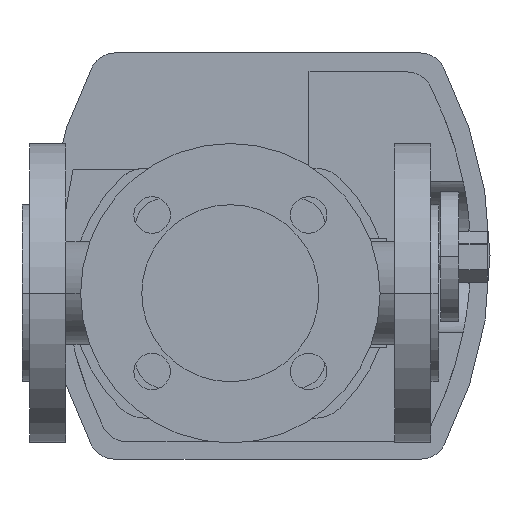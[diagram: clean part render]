
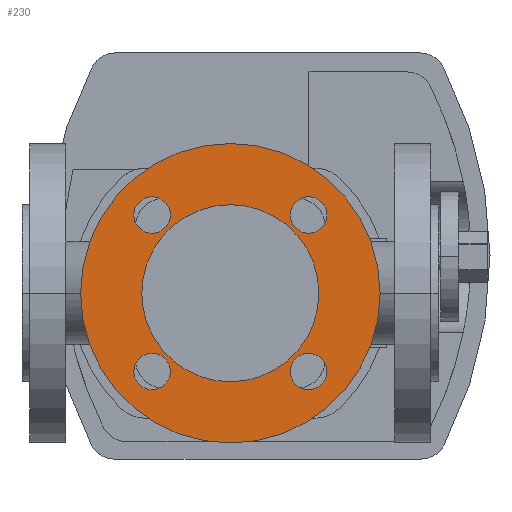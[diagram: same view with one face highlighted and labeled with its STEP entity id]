
A CAD part, front view. The second image highlights one B-rep face of the part: STEP entity #230.
In plain terms, the highlighted planar face has unit normal (0, -1, 0).
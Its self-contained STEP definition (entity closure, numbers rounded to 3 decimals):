
#230 = ADVANCED_FACE( '', ( #603, #604, #605, #606, #607, #608 ), #609, .F. );
#603 = FACE_BOUND( '', #1143, .T. );
#604 = FACE_BOUND( '', #1144, .T. );
#605 = FACE_BOUND( '', #1145, .T. );
#606 = FACE_BOUND( '', #1146, .T. );
#607 = FACE_OUTER_BOUND( '', #1147, .T. );
#608 = FACE_BOUND( '', #1148, .T. );
#609 = PLANE( '', #1149 );
#1143 = EDGE_LOOP( '', ( #2265, #2266 ) );
#1144 = EDGE_LOOP( '', ( #2267, #2268 ) );
#1145 = EDGE_LOOP( '', ( #2269, #2270 ) );
#1146 = EDGE_LOOP( '', ( #2271, #2272 ) );
#1147 = EDGE_LOOP( '', ( #2273, #2274 ) );
#1148 = EDGE_LOOP( '', ( #2275, #2276 ) );
#1149 = AXIS2_PLACEMENT_3D( '', #2277, #2278, #2279 );
#2265 = ORIENTED_EDGE( '', *, *, #3563, .T. );
#2266 = ORIENTED_EDGE( '', *, *, #3564, .T. );
#2267 = ORIENTED_EDGE( '', *, *, #3559, .T. );
#2268 = ORIENTED_EDGE( '', *, *, #3566, .T. );
#2269 = ORIENTED_EDGE( '', *, *, #3555, .T. );
#2270 = ORIENTED_EDGE( '', *, *, #3568, .T. );
#2271 = ORIENTED_EDGE( '', *, *, #3551, .T. );
#2272 = ORIENTED_EDGE( '', *, *, #3570, .T. );
#2273 = ORIENTED_EDGE( '', *, *, #3467, .F. );
#2274 = ORIENTED_EDGE( '', *, *, #3728, .F. );
#2275 = ORIENTED_EDGE( '', *, *, #3449, .F. );
#2276 = ORIENTED_EDGE( '', *, *, #3729, .F. );
#2277 = CARTESIAN_POINT( '', ( 80., -72., 0. ) );
#2278 = DIRECTION( '', ( 0., 1., 0. ) );
#2279 = DIRECTION( '', ( 0., 0., 1. ) );
#3449 = EDGE_CURVE( '', #4088, #4084, #4090, .T. );
#3467 = EDGE_CURVE( '', #4123, #4126, #4127, .T. );
#3551 = EDGE_CURVE( '', #4285, #4289, #4291, .T. );
#3555 = EDGE_CURVE( '', #4293, #4297, #4299, .T. );
#3559 = EDGE_CURVE( '', #4301, #4305, #4307, .T. );
#3563 = EDGE_CURVE( '', #4309, #4313, #4315, .T. );
#3564 = EDGE_CURVE( '', #4313, #4309, #4316, .T. );
#3566 = EDGE_CURVE( '', #4305, #4301, #4318, .T. );
#3568 = EDGE_CURVE( '', #4297, #4293, #4320, .T. );
#3570 = EDGE_CURVE( '', #4289, #4285, #4322, .T. );
#3728 = EDGE_CURVE( '', #4126, #4123, #4559, .T. );
#3729 = EDGE_CURVE( '', #4084, #4088, #4560, .T. );
#4084 = VERTEX_POINT( '', #5130 );
#4088 = VERTEX_POINT( '', #5135 );
#4090 = CIRCLE( '', #5138, 34. );
#4123 = VERTEX_POINT( '', #5228 );
#4126 = VERTEX_POINT( '', #5232 );
#4127 = CIRCLE( '', #5233, 57.5 );
#4285 = VERTEX_POINT( '', #5502 );
#4289 = VERTEX_POINT( '', #5507 );
#4291 = CIRCLE( '', #5510, 7. );
#4293 = VERTEX_POINT( '', #5512 );
#4297 = VERTEX_POINT( '', #5517 );
#4299 = CIRCLE( '', #5520, 7. );
#4301 = VERTEX_POINT( '', #5522 );
#4305 = VERTEX_POINT( '', #5527 );
#4307 = CIRCLE( '', #5530, 7. );
#4309 = VERTEX_POINT( '', #5532 );
#4313 = VERTEX_POINT( '', #5537 );
#4315 = CIRCLE( '', #5540, 7. );
#4316 = CIRCLE( '', #5541, 7. );
#4318 = CIRCLE( '', #5543, 7. );
#4320 = CIRCLE( '', #5545, 7. );
#4322 = CIRCLE( '', #5547, 7. );
#4559 = CIRCLE( '', #5995, 57.5 );
#4560 = CIRCLE( '', #5996, 34. );
#5130 = CARTESIAN_POINT( '', ( 114., -72., 0. ) );
#5135 = CARTESIAN_POINT( '', ( 46., -72., 0. ) );
#5138 = AXIS2_PLACEMENT_3D( '', #6813, #6814, #6815 );
#5228 = CARTESIAN_POINT( '', ( 137.5, -72., 0. ) );
#5232 = CARTESIAN_POINT( '', ( 22.5, -72., 0. ) );
#5233 = AXIS2_PLACEMENT_3D( '', #6846, #6847, #6848 );
#5502 = CARTESIAN_POINT( '', ( 42.948, -72., -30.052 ) );
#5507 = CARTESIAN_POINT( '', ( 56.948, -72., -30.052 ) );
#5510 = AXIS2_PLACEMENT_3D( '', #7008, #7009, #7010 );
#5512 = CARTESIAN_POINT( '', ( 42.948, -72., 30.052 ) );
#5517 = CARTESIAN_POINT( '', ( 56.948, -72., 30.052 ) );
#5520 = AXIS2_PLACEMENT_3D( '', #7016, #7017, #7018 );
#5522 = CARTESIAN_POINT( '', ( 103.052, -72., 30.052 ) );
#5527 = CARTESIAN_POINT( '', ( 117.052, -72., 30.052 ) );
#5530 = AXIS2_PLACEMENT_3D( '', #7024, #7025, #7026 );
#5532 = CARTESIAN_POINT( '', ( 103.052, -72., -30.052 ) );
#5537 = CARTESIAN_POINT( '', ( 117.052, -72., -30.052 ) );
#5540 = AXIS2_PLACEMENT_3D( '', #7032, #7033, #7034 );
#5541 = AXIS2_PLACEMENT_3D( '', #7035, #7036, #7037 );
#5543 = AXIS2_PLACEMENT_3D( '', #7041, #7042, #7043 );
#5545 = AXIS2_PLACEMENT_3D( '', #7047, #7048, #7049 );
#5547 = AXIS2_PLACEMENT_3D( '', #7053, #7054, #7055 );
#5995 = AXIS2_PLACEMENT_3D( '', #7335, #7336, #7337 );
#5996 = AXIS2_PLACEMENT_3D( '', #7338, #7339, #7340 );
#6813 = CARTESIAN_POINT( '', ( 80., -72., 0. ) );
#6814 = DIRECTION( '', ( 0., -1., 0. ) );
#6815 = DIRECTION( '', ( 1., 0., 0. ) );
#6846 = CARTESIAN_POINT( '', ( 80., -72., 0. ) );
#6847 = DIRECTION( '', ( 0., 1., 0. ) );
#6848 = DIRECTION( '', ( 1., 0., 0. ) );
#7008 = CARTESIAN_POINT( '', ( 49.948, -72., -30.052 ) );
#7009 = DIRECTION( '', ( 0., 1., 0. ) );
#7010 = DIRECTION( '', ( -1., 0., 0. ) );
#7016 = CARTESIAN_POINT( '', ( 49.948, -72., 30.052 ) );
#7017 = DIRECTION( '', ( 0., 1., 0. ) );
#7018 = DIRECTION( '', ( -1., 0., 0. ) );
#7024 = CARTESIAN_POINT( '', ( 110.052, -72., 30.052 ) );
#7025 = DIRECTION( '', ( 0., 1., 0. ) );
#7026 = DIRECTION( '', ( -1., 0., 0. ) );
#7032 = CARTESIAN_POINT( '', ( 110.052, -72., -30.052 ) );
#7033 = DIRECTION( '', ( 0., 1., 0. ) );
#7034 = DIRECTION( '', ( -1., 0., 0. ) );
#7035 = CARTESIAN_POINT( '', ( 110.052, -72., -30.052 ) );
#7036 = DIRECTION( '', ( 0., 1., 0. ) );
#7037 = DIRECTION( '', ( -1., 0., 0. ) );
#7041 = CARTESIAN_POINT( '', ( 110.052, -72., 30.052 ) );
#7042 = DIRECTION( '', ( 0., 1., 0. ) );
#7043 = DIRECTION( '', ( -1., 0., 0. ) );
#7047 = CARTESIAN_POINT( '', ( 49.948, -72., 30.052 ) );
#7048 = DIRECTION( '', ( 0., 1., 0. ) );
#7049 = DIRECTION( '', ( -1., 0., 0. ) );
#7053 = CARTESIAN_POINT( '', ( 49.948, -72., -30.052 ) );
#7054 = DIRECTION( '', ( 0., 1., 0. ) );
#7055 = DIRECTION( '', ( -1., 0., 0. ) );
#7335 = CARTESIAN_POINT( '', ( 80., -72., 0. ) );
#7336 = DIRECTION( '', ( 0., 1., 0. ) );
#7337 = DIRECTION( '', ( 1., 0., 0. ) );
#7338 = CARTESIAN_POINT( '', ( 80., -72., 0. ) );
#7339 = DIRECTION( '', ( 0., -1., 0. ) );
#7340 = DIRECTION( '', ( 1., 0., 0. ) );
